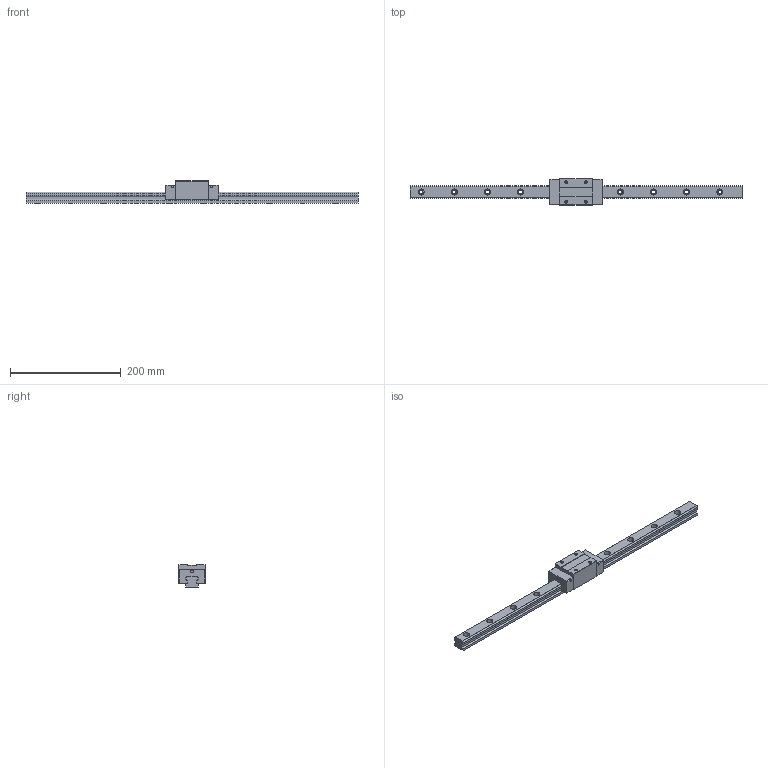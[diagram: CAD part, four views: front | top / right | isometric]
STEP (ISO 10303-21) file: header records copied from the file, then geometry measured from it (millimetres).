
FILE_DESCRIPTION (( 'STEP AP203' ), '1' );
FILE_NAME ('TRH25VN-SZ.STEP', '2024-07-10T02:34:28', ( '' ), ( '' ), 'SwSTEP 2.0', 'SolidWorks 2022', '' );
FILE_SCHEMA (( 'CONFIG_CONTROL_DESIGN' ));
Length unit declared in the file: millimetre
Products named in the file (1): TRH25VN-SZ
Bounding box: 600 x 48 x 40 mm (x, y, z)
Volume: 346353.1 mm3; surface area: 80203.4 mm2
Topology: 2 solids, 2 shells, 200 faces, 520 edges, 336 vertices
Faces by surface type: cylinder 96, plane 88, cone 16
Entity records: 6223 total; most frequent: DIRECTION 1114, CARTESIAN_POINT 1049, ORIENTED_EDGE 1024, EDGE_CURVE 512, AXIS2_PLACEMENT_3D 401, VERTEX_POINT 336, VECTOR 312, LINE 312
